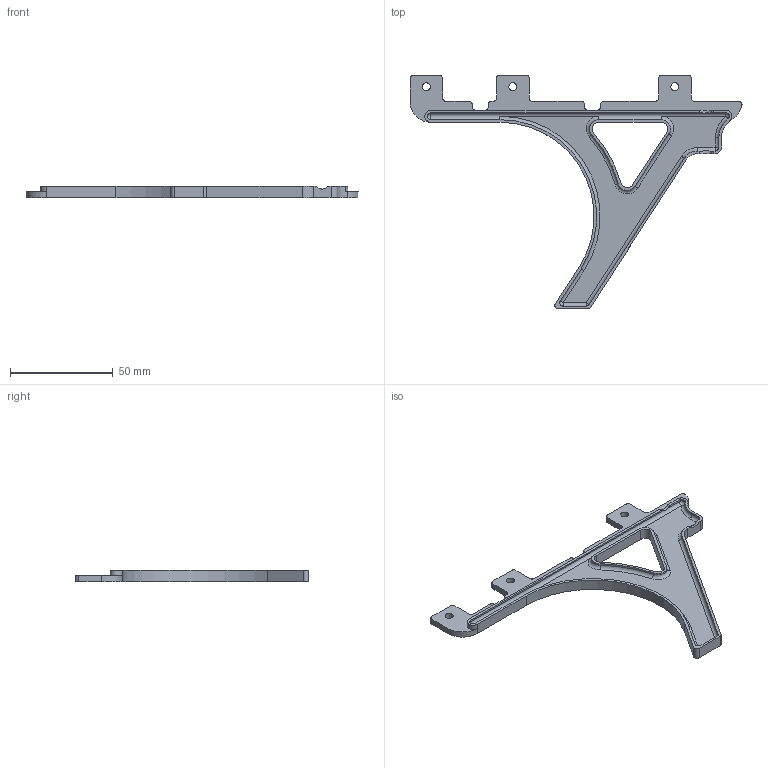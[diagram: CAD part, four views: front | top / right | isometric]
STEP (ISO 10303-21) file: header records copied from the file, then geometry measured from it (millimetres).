
FILE_DESCRIPTION(/* description */ (''),/* implementation_level */ '2;1');
FILE_NAME(/* name */ '2609_ROAM_LG_3DP_REV1.step',/* time_stamp */ '2026-09-16T14:06:53-07:00',/* author */ (''),/* organization */ (''),/* preprocessor_version */ 'ST-DEVELOPER v20.2',/* originating_system */ 'Autodesk Translation Framework v15.15.0.0',/* authorisation */ '');
FILE_SCHEMA (('AUTOMOTIVE_DESIGN { 1 0 10303 214 3 1 1 }'));
Length unit declared in the file: inch
Products named in the file (1): 2026-09-15-16-36-55-723
Bounding box: 161.35 x 113.51 x 5.54 mm (x, y, z)
Volume: 16649.3 mm3; surface area: 14231 mm2
Topology: 1 solids, 1 shells, 120 faces, 331 edges, 211 vertices
Faces by surface type: cylinder 62, plane 46, torus 7, sphere 4, bspline 1
Full cylindrical faces by diameter (mm): 3.912 x3
Entity records: 3916 total; most frequent: DIRECTION 708, CARTESIAN_POINT 693, ORIENTED_EDGE 658, EDGE_CURVE 329, AXIS2_PLACEMENT_3D 261, VERTEX_POINT 211, LINE 186, VECTOR 186
